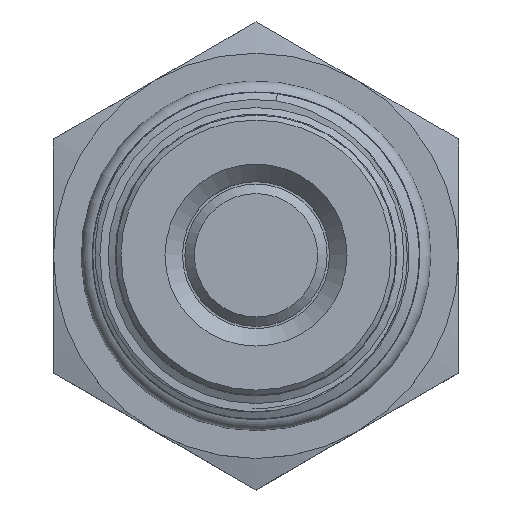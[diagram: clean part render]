
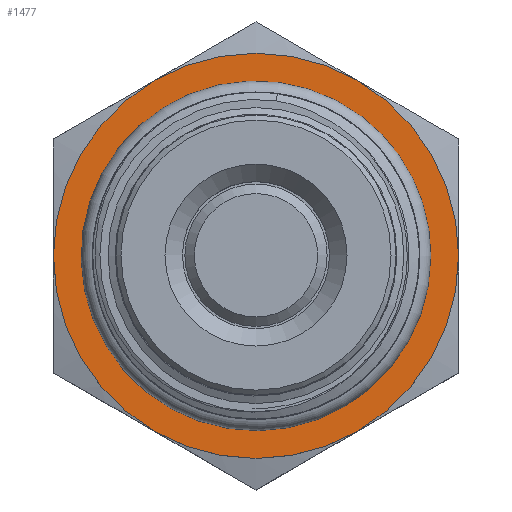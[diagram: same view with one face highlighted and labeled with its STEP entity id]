
A CAD part, top view. The second image highlights one B-rep face of the part: STEP entity #1477.
In plain terms, the highlighted planar face has unit normal (0, 0, 1).
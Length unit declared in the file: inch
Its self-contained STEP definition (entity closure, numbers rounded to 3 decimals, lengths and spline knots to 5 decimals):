
#74=FACE_BOUND('',#321,.T.);
#91=PLANE('',#1611);
#132=CIRCLE('',#1612,0.8125);
#133=CIRCLE('',#1613,0.6435);
#134=CIRCLE('',#1614,0.6435);
#230=FACE_OUTER_BOUND('',#320,.T.);
#320=EDGE_LOOP('',(#978));
#321=EDGE_LOOP('',(#979,#980));
#576=VERTEX_POINT('',#2614);
#577=VERTEX_POINT('',#2615);
#582=VERTEX_POINT('',#2630);
#741=EDGE_CURVE('',#582,#582,#132,.T.);
#742=EDGE_CURVE('',#576,#577,#133,.T.);
#743=EDGE_CURVE('',#577,#576,#134,.T.);
#978=ORIENTED_EDGE('',*,*,#741,.F.);
#979=ORIENTED_EDGE('',*,*,#742,.F.);
#980=ORIENTED_EDGE('',*,*,#743,.F.);
#1477=ADVANCED_FACE('',(#230,#74),#91,.F.);
#1611=AXIS2_PLACEMENT_3D('',#2629,#1849,#1850);
#1612=AXIS2_PLACEMENT_3D('',#2631,#1851,#1852);
#1613=AXIS2_PLACEMENT_3D('',#2632,#1853,#1854);
#1614=AXIS2_PLACEMENT_3D('',#2633,#1855,#1856);
#1849=DIRECTION('center_axis',(0.,0.,
-1.));
#1850=DIRECTION('ref_axis',(-1.,0.,0.));
#1851=DIRECTION('center_axis',(0.,0.,
-1.));
#1852=DIRECTION('ref_axis',(-1.,0.,0.));
#1853=DIRECTION('center_axis',(0.,0.,
1.));
#1854=DIRECTION('ref_axis',(-1.,0.,0.));
#1855=DIRECTION('center_axis',(0.,0.,
1.));
#1856=DIRECTION('ref_axis',(-1.,0.,0.));
#2614=CARTESIAN_POINT('',(0.6435,0.,0.49627));
#2615=CARTESIAN_POINT('',(0.39003,0.51183,0.49627));
#2629=CARTESIAN_POINT('Origin',(0.,0.,
0.49627));
#2630=CARTESIAN_POINT('',(0.8125,0.,0.49627));
#2631=CARTESIAN_POINT('Origin',(0.,0.,
0.49627));
#2632=CARTESIAN_POINT('Origin',(0.,0.,
0.49627));
#2633=CARTESIAN_POINT('Origin',(0.,0.,
0.49627));
